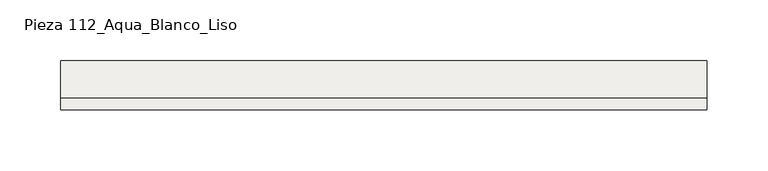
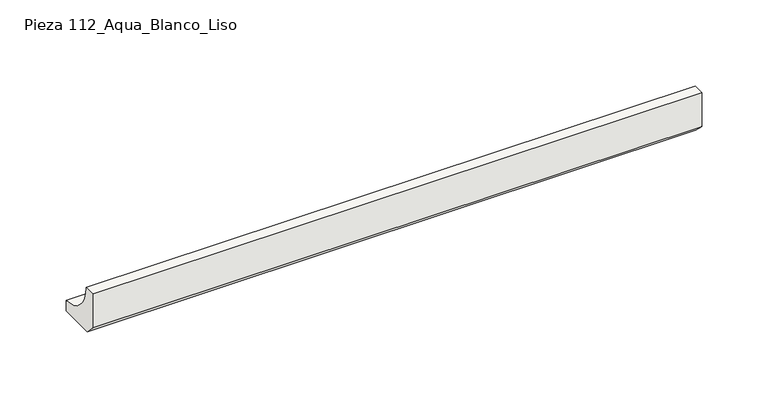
"""IFC4 building model written with IfcOpenShell, lengths in millimetres: slab geometry, ROSA GRES_112 : Pieza 112_Aqua_Blanco_Liso."""

from ifc_helpers import new_model, si_unit, point, frame, frame_2d, origin, place, context, project, spatial, polyline, circle_curve, trimmed, segment, composite_curve, outline, extrude, source, transform, mapped, element, save


def pieza_112_aqua_blanco_liso_d6423cb9(model_context):
    return source(origin(), model_context, "Body", "SweptSolid", [
        extrude(outline(composite_curve([segment(polyline([(-9.9734114, 8.7114978), (-9.9734114, 40.0), (0.0, 40.0)]), True, "CONTINUOUS"), segment(trimmed(circle_curve(frame_2d((30.0221432, 39.9955547)), 30.0221435), [point((0.0, 40.0))], [point((30.0265886, 9.9734114))], True, "CARTESIAN"), True, "CONTINUOUS"), segment(polyline([(30.0265886, 9.9734114), (30.0265886, 0.0), (-1.2619137, 0.0), (-9.9734114, 8.7114978)]), True, "CONTINUOUS")], self_intersect=False)), frame((0.0, 0.0, 0.0), z_axis=(1.0, 0.0, 0.0), x_axis=(0.0, 1.0, 0.0)), (0.0, 0.0, 1.0), 530.0),
    ])


if __name__ == "__main__":
    model = new_model("IFC4")
    model_context = context("Model", 3, world=origin())
    ifc_project = project(units=[si_unit("LENGTHUNIT", "METRE", prefix="MILLI")], contexts=[model_context])
    site = spatial("IfcSite", under=ifc_project)
    building = spatial("IfcBuilding", under=site)
    placement = place(None, origin())
    pieza_112_aqua_blanco_liso_shape = pieza_112_aqua_blanco_liso_d6423cb9(model_context)
    element("IfcSlab", 1, ObjectType="ROSA GRES_112 : Pieza 112_Aqua_Blanco_Liso", at=placement, inside=building, context=model_context, shape_type="MappedRepresentation", body=[
        mapped(pieza_112_aqua_blanco_liso_shape, transform((0.0, 0.0, 0.0), x_axis=(1.0, 0.0, 0.0), y_axis=(0.0, 1.0, 0.0), z_axis=(0.0, 0.0, 1.0))),
    ])
    save(model, "model.ifc")
